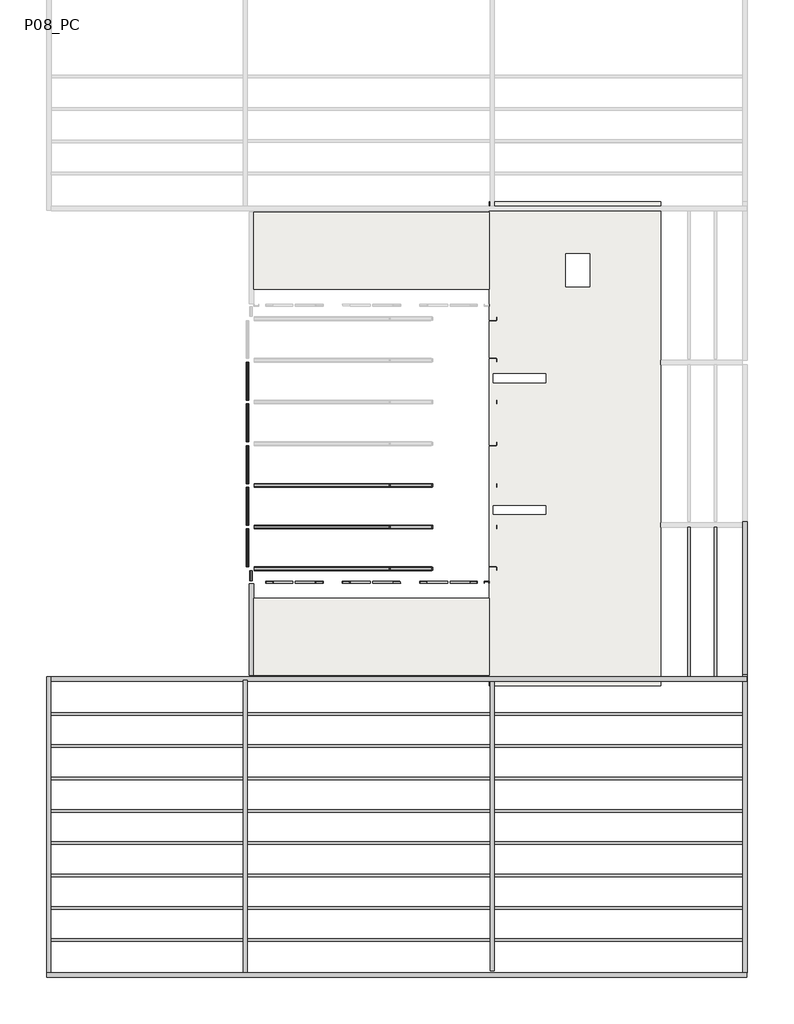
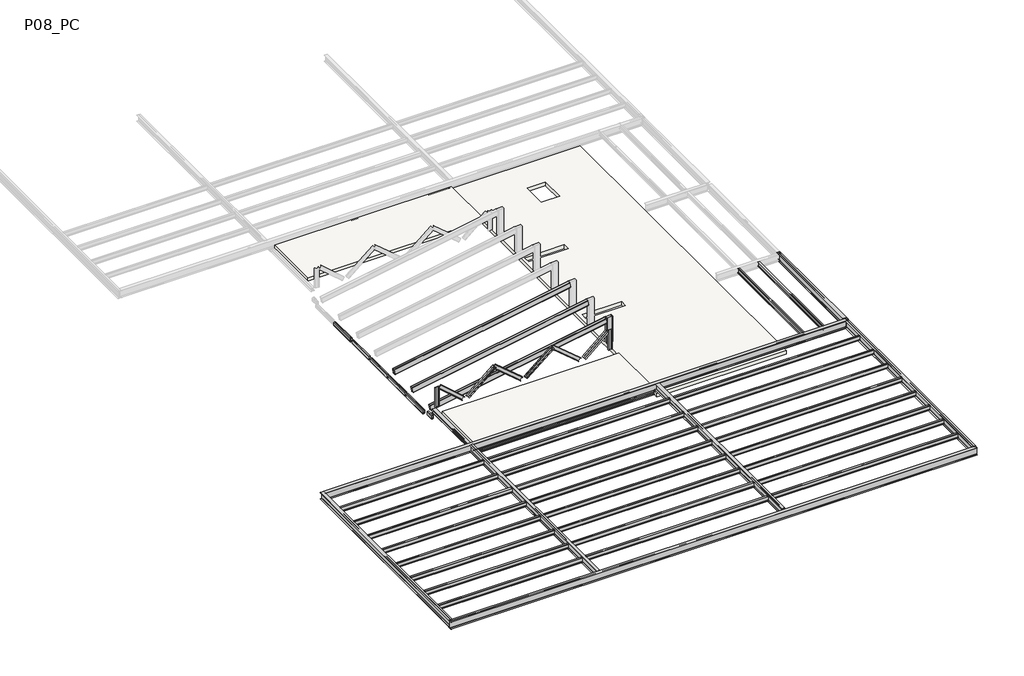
# One storey, part 1 of 2: 50 beams, 3 columns, 2 slabs.
"""IFC4 building model written with IfcOpenShell, lengths in millimetres."""

from ifc_helpers import new_model, si_unit, frame, origin, place, context, project, spatial, polyline, outline, extrude, faceted_brep, transform, mapped, element, save
from components import heb_180x180_c49aca14, heb_180x180_6f7749b3, m_hss_rectangular_hss_200x100_02db10bf, m_hss_rectangular_hss_200x100_1788cd85, m_hss_rectangular_hss_200x100_fa2a969a, m_hss_rectangular_hss_200x100_f713b872, m_hss_rectangular_hss_200x100_80d761ef, m_hss_rectangular_hss_300x150_f2dc2021, ub_universal_beams_ipe_400x180_9b888a99, ub_universal_beams_ipe_400x180_7d0474ca, ub_universal_beams_ipe_400x180_c99dd9ee, ub_universal_beams_ipe_400x180_7c40678e, ub_universal_beams_ipe360x170_00305597, ub_universal_beams_ipe360x170_7345a894, ub_universal_beams_ipe360x170_40bca2fe, ub_universal_beams_ub240x100x40_81a49e44, ub_universal_beams_ub240x100x40_b49092f3, ub_universal_beams_ub240x100x40_dda5167d, ub_universal_beams_ub240x100x40_f5e3285b, upn200x75_e305e8eb, upn200x75_de5bd99d, upn200x75_fda01a95, upn200x75_ef32aa81, rhs_rectangular_hollow_section_column_300x150x5_0rhs_4ea1d480, upn_200x75_9e4be795

model = new_model("IFC4")

# Units and contexts
model_context = context("Model", 3, world=origin())
ifc_project = project(units=[si_unit("LENGTHUNIT", "METRE", prefix="MILLI")], contexts=[model_context])

# Site, building, storey
site = spatial("IfcSite", under=ifc_project)
building = spatial("IfcBuilding", under=site)
storey = spatial("IfcBuildingStorey", under=building, Name="P08_PC", Elevation=37410.0)

# Beams
placement = place(None, origin())
heb_180x180_shape = heb_180x180_c49aca14(model_context)
element("IfcBeam", 1, ObjectType="M_HP-Bearing Pile : HEB 180x180", at=placement, inside=storey, context=model_context, shape_type="MappedRepresentation", body=[
    mapped(heb_180x180_shape, transform((-18515.2932454, -4910.1983304, 37770.0), x_axis=(1.0, 0.0, 0.0), y_axis=(0.0, 1.0, 0.0), z_axis=(0.0, 0.0, 1.0))),
])
heb_180x180_2_shape = heb_180x180_6f7749b3(model_context)
element("IfcBeam", 2, ObjectType="M_HP-Bearing Pile : HEB 180x180", at=placement, inside=storey, context=model_context, shape_type="MappedRepresentation", body=[
    mapped(heb_180x180_2_shape, transform((-23130.357866, -2901.6048659, 37770.0), x_axis=(0.0, -1.0, 0.0), y_axis=(1.0, 0.0, 0.0), z_axis=(0.0, 0.0, 1.0))),
])
m_hss_rectangular_hss_200x100_shape = m_hss_rectangular_hss_200x100_02db10bf(model_context)
element("IfcBeam", 3, ObjectType="M_HSS Rectangular : HSS 200x100", at=placement, inside=storey, context=model_context, shape_type="MappedRepresentation", body=[
    mapped(m_hss_rectangular_hss_200x100_shape, transform((-23290.3172557, 6989.4139649, 37310.0), x_axis=(-3.182446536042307e-08, -0.9999999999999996, 0.0), y_axis=(0.9999999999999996, -3.182446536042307e-08, 0.0), z_axis=(0.0, 0.0, 1.0))),
])
element("IfcBeam", 4, ObjectType="M_HSS Rectangular : HSS 200x100", at=placement, inside=storey, context=model_context, shape_type="MappedRepresentation", body=[
    mapped(m_hss_rectangular_hss_200x100_shape, transform((-23290.3174148, 1989.4143425, 37310.0), x_axis=(-3.182446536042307e-08, -0.9999999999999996, 0.0), y_axis=(0.9999999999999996, -3.182446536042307e-08, 0.0), z_axis=(0.0, 0.0, 1.0))),
])
m_hss_rectangular_hss_200x100_2_shape = m_hss_rectangular_hss_200x100_1788cd85(model_context)
element("IfcBeam", 5, ObjectType="M_HSS Rectangular : HSS 200x100", at=placement, inside=storey, context=model_context, shape_type="MappedRepresentation", body=[
    mapped(m_hss_rectangular_hss_200x100_2_shape, transform((-23290.3173087, 5322.9883919, 37310.0), x_axis=(-3.182446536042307e-08, -0.9999999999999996, 0.0), y_axis=(0.9999999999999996, -3.182446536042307e-08, 0.0), z_axis=(0.0, 0.0, 1.0))),
])
m_hss_rectangular_hss_200x100_3_shape = m_hss_rectangular_hss_200x100_fa2a969a(model_context)
element("IfcBeam", 6, ObjectType="M_HSS Rectangular : HSS 200x100", at=placement, inside=storey, context=model_context, shape_type="MappedRepresentation", body=[
    mapped(m_hss_rectangular_hss_200x100_3_shape, transform((-23290.3173618, 3656.3218509, 37310.0), x_axis=(-3.182446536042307e-08, -0.9999999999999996, 0.0), y_axis=(0.9999999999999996, -3.182446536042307e-08, 0.0), z_axis=(0.0, 0.0, 1.0))),
])
m_hss_rectangular_hss_200x100_4_shape = m_hss_rectangular_hss_200x100_f713b872(model_context)
element("IfcBeam", 7, ObjectType="M_HSS Rectangular : HSS 200x100", at=placement, inside=storey, context=model_context, shape_type="MappedRepresentation", body=[
    mapped(m_hss_rectangular_hss_200x100_4_shape, transform((-23290.3174678, 322.7478039, 37310.0), x_axis=(-3.182446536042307e-08, -0.9999999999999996, 0.0), y_axis=(0.9999999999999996, -3.182446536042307e-08, 0.0), z_axis=(0.0, 0.0, 1.0))),
])
m_hss_rectangular_hss_200x100_5_shape = m_hss_rectangular_hss_200x100_80d761ef(model_context)
element("IfcBeam", 8, ObjectType="M_HSS Rectangular : HSS 200x100", at=placement, inside=storey, context=model_context, shape_type="MappedRepresentation", body=[
    mapped(m_hss_rectangular_hss_200x100_5_shape, transform((-23160.3171618, -812.6043939, 37310.0), x_axis=(0.0, -1.0, 0.0), y_axis=(1.0, 0.0, 0.0), z_axis=(0.0, 0.0, 1.0))),
])
m_hss_rectangular_hss_300x150_shape = m_hss_rectangular_hss_300x150_f2dc2021(model_context)
element("IfcBeam", 9, ObjectType="M_HSS Rectangular : HSS 300x150", at=placement, inside=storey, context=model_context, shape_type="MappedRepresentation", body=[
    mapped(m_hss_rectangular_hss_300x150_shape, transform((-18389.3310242, 2822.7475973, 38322.2684738), x_axis=(0.9848768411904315, -2.6177525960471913e-09, 0.1732559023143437), y_axis=(2.6579491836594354e-09, 1.0, 0.0), z_axis=(-0.17325590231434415, 4.6050538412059e-10, 0.9848768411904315))),
])
element("IfcBeam", 10, ObjectType="M_HSS Rectangular : HSS 300x150", at=placement, inside=storey, context=model_context, shape_type="MappedRepresentation", body=[
    mapped(m_hss_rectangular_hss_300x150_shape, transform((-18389.3310242, 1156.0810586, 38322.2684738), x_axis=(0.9848768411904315, -2.6177525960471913e-09, 0.1732559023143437), y_axis=(2.6579491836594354e-09, 1.0, 0.0), z_axis=(-0.17325590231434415, 4.6050538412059e-10, 0.9848768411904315))),
])
element("IfcBeam", 11, ObjectType="M_HSS Rectangular : HSS 300x150", at=placement, inside=storey, context=model_context, shape_type="MappedRepresentation", body=[
    mapped(m_hss_rectangular_hss_300x150_shape, transform((-18389.3310242, -510.5854799, 38322.2684738), x_axis=(0.9848768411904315, -2.6177525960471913e-09, 0.1732559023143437), y_axis=(2.6579491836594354e-09, 1.0, 0.0), z_axis=(-0.17325590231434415, 4.6050538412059e-10, 0.9848768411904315))),
])
ub_universal_beams_ipe_400x180_shape = ub_universal_beams_ipe_400x180_9b888a99(model_context)
element("IfcBeam", 12, ObjectType="UB-Universal Beams : IPE 400x180", at=placement, inside=storey, context=model_context, shape_type="MappedRepresentation", body=[
    mapped(ub_universal_beams_ipe_400x180_shape, transform((-3415.7677047, -10837.5661244, 38060.0), x_axis=(0.0, 1.0, 0.0), y_axis=(-1.0, 0.0, 0.0), z_axis=(0.0, 0.0, 1.0))),
])
ub_universal_beams_ipe_400x180_2_shape = ub_universal_beams_ipe_400x180_7d0474ca(model_context)
element("IfcBeam", 13, ObjectType="UB-Universal Beams : IPE 400x180", at=placement, inside=storey, context=model_context, shape_type="MappedRepresentation", body=[
    mapped(ub_universal_beams_ipe_400x180_2_shape, transform((-17328.0381118, -16760.1023766, 38060.0), x_axis=(1.0, 0.0, 0.0), y_axis=(0.0, 1.0, 0.0), z_axis=(0.0, 0.0, 1.0))),
])
ub_universal_beams_ipe_400x180_3_shape = ub_universal_beams_ipe_400x180_c99dd9ee(model_context)
element("IfcBeam", 14, ObjectType="UB-Universal Beams : IPE 400x180", at=placement, inside=storey, context=model_context, shape_type="MappedRepresentation", body=[
    mapped(ub_universal_beams_ipe_400x180_3_shape, transform((-17328.0255668, -4910.1983304, 38060.0), x_axis=(1.0, 0.0, 0.0), y_axis=(0.0, 1.0, 0.0), z_axis=(0.0, 0.0, 1.0))),
])
ub_universal_beams_ipe_400x180_4_shape = ub_universal_beams_ipe_400x180_7c40678e(model_context)
element("IfcBeam", 15, ObjectType="UB-Universal Beams : IPE 400x180", at=placement, inside=storey, context=model_context, shape_type="MappedRepresentation", body=[
    mapped(ub_universal_beams_ipe_400x180_4_shape, transform((-3415.7426146, -1837.4761974, 38060.0), x_axis=(0.0, 1.0, 0.0), y_axis=(-1.0, 0.0, 0.0), z_axis=(0.0, 0.0, 1.0))),
])
ub_universal_beams_ipe360x170_shape = ub_universal_beams_ipe360x170_00305597(model_context)
element("IfcBeam", 16, ObjectType="UB-Universal Beams : IPE360x170", at=placement, inside=storey, context=model_context, shape_type="MappedRepresentation", body=[
    mapped(ub_universal_beams_ipe360x170_shape, transform((-31240.3085189, -10835.1503535, 38080.0), x_axis=(0.0, 1.0, 0.0), y_axis=(-1.0, 0.0, 0.0), z_axis=(0.0, 0.0, 1.0))),
])
ub_universal_beams_ipe360x170_2_shape = ub_universal_beams_ipe360x170_7345a894(model_context)
element("IfcBeam", 17, ObjectType="UB-Universal Beams : IPE360x170", at=placement, inside=storey, context=model_context, shape_type="MappedRepresentation", body=[
    mapped(ub_universal_beams_ipe360x170_2_shape, transform((-23390.2960189, -10972.669701, 38080.0), x_axis=(0.0, 1.0, 0.0), y_axis=(-1.0, 0.0, 0.0), z_axis=(0.0, 0.0, 1.0))),
])
ub_universal_beams_ipe360x170_3_shape = ub_universal_beams_ipe360x170_40bca2fe(model_context)
element("IfcBeam", 18, ObjectType="UB-Universal Beams : IPE360x170", at=placement, inside=storey, context=model_context, shape_type="MappedRepresentation", body=[
    mapped(ub_universal_beams_ipe360x170_3_shape, transform((-13515.29311, -10747.1261313, 38080.0), x_axis=(0.0, 1.0, 0.0), y_axis=(-1.0, 0.0, 0.0), z_axis=(0.0, 0.0, 1.0))),
])
ub_universal_beams_ub240x100x40_shape = ub_universal_beams_ub240x100x40_81a49e44(model_context)
element("IfcBeam", 19, ObjectType="UB-Universal Beams : UB240x100x40", at=placement, inside=storey, context=model_context, shape_type="MappedRepresentation", body=[
    mapped(ub_universal_beams_ub240x100x40_shape, transform((-27315.3022689, -6308.4467537, 38140.0), x_axis=(1.0, 0.0, 0.0), y_axis=(0.0, 1.0, 0.0), z_axis=(0.0, 0.0, 1.0))),
])
element("IfcBeam", 20, ObjectType="UB-Universal Beams : UB240x100x40", at=placement, inside=storey, context=model_context, shape_type="MappedRepresentation", body=[
    mapped(ub_universal_beams_ub240x100x40_shape, transform((-27315.3022689, -7601.7476813, 38140.0), x_axis=(1.0, 0.0, 0.0), y_axis=(0.0, 1.0, 0.0), z_axis=(0.0, 0.0, 1.0))),
])
element("IfcBeam", 21, ObjectType="UB-Universal Beams : UB240x100x40", at=placement, inside=storey, context=model_context, shape_type="MappedRepresentation", body=[
    mapped(ub_universal_beams_ub240x100x40_shape, transform((-27315.3022689, -8895.0486145, 38140.0), x_axis=(1.0, 0.0, 0.0), y_axis=(0.0, 1.0, 0.0), z_axis=(0.0, 0.0, 1.0))),
])
element("IfcBeam", 22, ObjectType="UB-Universal Beams : UB240x100x40", at=placement, inside=storey, context=model_context, shape_type="MappedRepresentation", body=[
    mapped(ub_universal_beams_ub240x100x40_shape, transform((-27315.3022689, -10188.3495476, 38140.0), x_axis=(1.0, 0.0, 0.0), y_axis=(0.0, 1.0, 0.0), z_axis=(0.0, 0.0, 1.0))),
])
element("IfcBeam", 23, ObjectType="UB-Universal Beams : UB240x100x40", at=placement, inside=storey, context=model_context, shape_type="MappedRepresentation", body=[
    mapped(ub_universal_beams_ub240x100x40_shape, transform((-27315.3022689, -11481.6504808, 38140.0), x_axis=(1.0, 0.0, 0.0), y_axis=(0.0, 1.0, 0.0), z_axis=(0.0, 0.0, 1.0))),
])
element("IfcBeam", 24, ObjectType="UB-Universal Beams : UB240x100x40", at=placement, inside=storey, context=model_context, shape_type="MappedRepresentation", body=[
    mapped(ub_universal_beams_ub240x100x40_shape, transform((-27315.3022689, -12774.9514139, 38140.0), x_axis=(1.0, 0.0, 0.0), y_axis=(0.0, 1.0, 0.0), z_axis=(0.0, 0.0, 1.0))),
])
element("IfcBeam", 25, ObjectType="UB-Universal Beams : UB240x100x40", at=placement, inside=storey, context=model_context, shape_type="MappedRepresentation", body=[
    mapped(ub_universal_beams_ub240x100x40_shape, transform((-27315.3022689, -14068.2523471, 38140.0), x_axis=(1.0, 0.0, 0.0), y_axis=(0.0, 1.0, 0.0), z_axis=(0.0, 0.0, 1.0))),
])
element("IfcBeam", 26, ObjectType="UB-Universal Beams : UB240x100x40", at=placement, inside=storey, context=model_context, shape_type="MappedRepresentation", body=[
    mapped(ub_universal_beams_ub240x100x40_shape, transform((-27315.3022689, -15361.5532803, 38140.0), x_axis=(1.0, 0.0, 0.0), y_axis=(0.0, 1.0, 0.0), z_axis=(0.0, 0.0, 1.0))),
])
ub_universal_beams_ub240x100x40_2_shape = ub_universal_beams_ub240x100x40_b49092f3(model_context)
element("IfcBeam", 27, ObjectType="UB-Universal Beams : UB240x100x40", at=placement, inside=storey, context=model_context, shape_type="MappedRepresentation", body=[
    mapped(ub_universal_beams_ub240x100x40_2_shape, transform((-18452.7945644, -6308.4467537, 38140.0), x_axis=(1.0, 0.0, 0.0), y_axis=(0.0, 1.0, 0.0), z_axis=(0.0, 0.0, 1.0))),
])
element("IfcBeam", 28, ObjectType="UB-Universal Beams : UB240x100x40", at=placement, inside=storey, context=model_context, shape_type="MappedRepresentation", body=[
    mapped(ub_universal_beams_ub240x100x40_2_shape, transform((-18452.7945644, -7601.7476813, 38140.0), x_axis=(1.0, 0.0, 0.0), y_axis=(0.0, 1.0, 0.0), z_axis=(0.0, 0.0, 1.0))),
])
element("IfcBeam", 29, ObjectType="UB-Universal Beams : UB240x100x40", at=placement, inside=storey, context=model_context, shape_type="MappedRepresentation", body=[
    mapped(ub_universal_beams_ub240x100x40_2_shape, transform((-18452.7945644, -8895.0486145, 38140.0), x_axis=(1.0, 0.0, 0.0), y_axis=(0.0, 1.0, 0.0), z_axis=(0.0, 0.0, 1.0))),
])
element("IfcBeam", 30, ObjectType="UB-Universal Beams : UB240x100x40", at=placement, inside=storey, context=model_context, shape_type="MappedRepresentation", body=[
    mapped(ub_universal_beams_ub240x100x40_2_shape, transform((-18452.7945644, -10188.3495476, 38140.0), x_axis=(1.0, 0.0, 0.0), y_axis=(0.0, 1.0, 0.0), z_axis=(0.0, 0.0, 1.0))),
])
element("IfcBeam", 31, ObjectType="UB-Universal Beams : UB240x100x40", at=placement, inside=storey, context=model_context, shape_type="MappedRepresentation", body=[
    mapped(ub_universal_beams_ub240x100x40_2_shape, transform((-18452.7945644, -11481.6504808, 38140.0), x_axis=(1.0, 0.0, 0.0), y_axis=(0.0, 1.0, 0.0), z_axis=(0.0, 0.0, 1.0))),
])
element("IfcBeam", 32, ObjectType="UB-Universal Beams : UB240x100x40", at=placement, inside=storey, context=model_context, shape_type="MappedRepresentation", body=[
    mapped(ub_universal_beams_ub240x100x40_2_shape, transform((-18452.7945644, -12774.9514139, 38140.0), x_axis=(1.0, 0.0, 0.0), y_axis=(0.0, 1.0, 0.0), z_axis=(0.0, 0.0, 1.0))),
])
element("IfcBeam", 33, ObjectType="UB-Universal Beams : UB240x100x40", at=placement, inside=storey, context=model_context, shape_type="MappedRepresentation", body=[
    mapped(ub_universal_beams_ub240x100x40_2_shape, transform((-18452.7945644, -14068.2523471, 38140.0), x_axis=(1.0, 0.0, 0.0), y_axis=(0.0, 1.0, 0.0), z_axis=(0.0, 0.0, 1.0))),
])
element("IfcBeam", 34, ObjectType="UB-Universal Beams : UB240x100x40", at=placement, inside=storey, context=model_context, shape_type="MappedRepresentation", body=[
    mapped(ub_universal_beams_ub240x100x40_2_shape, transform((-18452.7945644, -15361.5532803, 38140.0), x_axis=(1.0, 0.0, 0.0), y_axis=(0.0, 1.0, 0.0), z_axis=(0.0, 0.0, 1.0))),
])
ub_universal_beams_ub240x100x40_3_shape = ub_universal_beams_ub240x100x40_dda5167d(model_context)
element("IfcBeam", 35, ObjectType="UB-Universal Beams : UB240x100x40", at=placement, inside=storey, context=model_context, shape_type="MappedRepresentation", body=[
    mapped(ub_universal_beams_ub240x100x40_3_shape, transform((-8465.5304073, -6308.4467537, 38140.0), x_axis=(1.0, 0.0, 0.0), y_axis=(0.0, 1.0, 0.0), z_axis=(0.0, 0.0, 1.0))),
])
element("IfcBeam", 36, ObjectType="UB-Universal Beams : UB240x100x40", at=placement, inside=storey, context=model_context, shape_type="MappedRepresentation", body=[
    mapped(ub_universal_beams_ub240x100x40_3_shape, transform((-8465.5304073, -7601.7476813, 38140.0), x_axis=(1.0, 0.0, 0.0), y_axis=(0.0, 1.0, 0.0), z_axis=(0.0, 0.0, 1.0))),
])
element("IfcBeam", 37, ObjectType="UB-Universal Beams : UB240x100x40", at=placement, inside=storey, context=model_context, shape_type="MappedRepresentation", body=[
    mapped(ub_universal_beams_ub240x100x40_3_shape, transform((-8465.5304073, -8895.0486145, 38140.0), x_axis=(1.0, 0.0, 0.0), y_axis=(0.0, 1.0, 0.0), z_axis=(0.0, 0.0, 1.0))),
])
element("IfcBeam", 38, ObjectType="UB-Universal Beams : UB240x100x40", at=placement, inside=storey, context=model_context, shape_type="MappedRepresentation", body=[
    mapped(ub_universal_beams_ub240x100x40_3_shape, transform((-8465.5304073, -10188.3495476, 38140.0), x_axis=(1.0, 0.0, 0.0), y_axis=(0.0, 1.0, 0.0), z_axis=(0.0, 0.0, 1.0))),
])
element("IfcBeam", 39, ObjectType="UB-Universal Beams : UB240x100x40", at=placement, inside=storey, context=model_context, shape_type="MappedRepresentation", body=[
    mapped(ub_universal_beams_ub240x100x40_3_shape, transform((-8465.5304073, -11481.6504808, 38140.0), x_axis=(1.0, 0.0, 0.0), y_axis=(0.0, 1.0, 0.0), z_axis=(0.0, 0.0, 1.0))),
])
element("IfcBeam", 40, ObjectType="UB-Universal Beams : UB240x100x40", at=placement, inside=storey, context=model_context, shape_type="MappedRepresentation", body=[
    mapped(ub_universal_beams_ub240x100x40_3_shape, transform((-8465.5304073, -12774.9514139, 38140.0), x_axis=(1.0, 0.0, 0.0), y_axis=(0.0, 1.0, 0.0), z_axis=(0.0, 0.0, 1.0))),
])
element("IfcBeam", 41, ObjectType="UB-Universal Beams : UB240x100x40", at=placement, inside=storey, context=model_context, shape_type="MappedRepresentation", body=[
    mapped(ub_universal_beams_ub240x100x40_3_shape, transform((-8465.5304073, -14068.2523471, 38140.0), x_axis=(1.0, 0.0, 0.0), y_axis=(0.0, 1.0, 0.0), z_axis=(0.0, 0.0, 1.0))),
])
element("IfcBeam", 42, ObjectType="UB-Universal Beams : UB240x100x40", at=placement, inside=storey, context=model_context, shape_type="MappedRepresentation", body=[
    mapped(ub_universal_beams_ub240x100x40_3_shape, transform((-8465.5304073, -15361.5532803, 38140.0), x_axis=(1.0, 0.0, 0.0), y_axis=(0.0, 1.0, 0.0), z_axis=(0.0, 0.0, 1.0))),
])
ub_universal_beams_ub240x100x40_4_shape = ub_universal_beams_ub240x100x40_f5e3285b(model_context)
element("IfcBeam", 43, ObjectType="UB-Universal Beams : UB240x100x40", at=placement, inside=storey, context=model_context, shape_type="MappedRepresentation", body=[
    mapped(ub_universal_beams_ub240x100x40_4_shape, transform((-5648.1544212, -1837.4761974, 38140.0), x_axis=(-1.2454712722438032e-09, -1.0, 0.0), y_axis=(1.0, -1.2454712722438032e-09, 0.0), z_axis=(0.0, 0.0, 1.0))),
])
element("IfcBeam", 44, ObjectType="UB-Universal Beams : UB240x100x40", at=placement, inside=storey, context=model_context, shape_type="MappedRepresentation", body=[
    mapped(ub_universal_beams_ub240x100x40_4_shape, transform((-4581.4877544, -1837.4761974, 38140.0), x_axis=(-1.245471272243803e-09, -1.0, 0.0), y_axis=(1.0, -1.245471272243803e-09, 0.0), z_axis=(0.0, 0.0, 1.0))),
])
upn200x75_shape = upn200x75_e305e8eb(model_context)
element("IfcBeam", 45, ObjectType="M_MC Shapes : UPN200x75", at=placement, inside=storey, context=model_context, shape_type="MappedRepresentation", body=[
    mapped(upn200x75_shape, transform((-16078.5015294, -1021.4872835, 38461.0568246), x_axis=(-0.7654444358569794, -1.1576554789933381e-08, 0.6435019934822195), y_axis=(-1.5123966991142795e-08, 1.0, 0.0), z_axis=(-0.643501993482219, -9.732304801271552e-09, -0.7654444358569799))),
])
element("IfcBeam", 46, ObjectType="M_MC Shapes : UPN200x75", at=placement, inside=storey, context=model_context, shape_type="MappedRepresentation", body=[
    mapped(upn200x75_shape, transform((-19176.2250657, -1021.4872834, 38461.0568246), x_axis=(-0.7654444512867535, -1.157326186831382e-08, 0.6435019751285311), y_axis=(-1.5119664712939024e-08, 0.9999999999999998, 0.0), z_axis=(-0.6435019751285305, -9.729535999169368e-09, -0.7654444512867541))),
])
upn200x75_2_shape = upn200x75_de5bd99d(model_context)
element("IfcBeam", 47, ObjectType="M_MC Shapes : UPN200x75", at=placement, inside=storey, context=model_context, shape_type="MappedRepresentation", body=[
    mapped(upn200x75_2_shape, transform((-17508.4135431, -1021.4872834, 38461.0568246), x_axis=(0.7654444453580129, -1.1576577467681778e-08, 0.6435019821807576), y_axis=(-1.5123992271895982e-08, -1.0, 0.0), z_axis=(0.6435019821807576, -9.732317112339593e-09, -0.7654444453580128))),
])
element("IfcBeam", 48, ObjectType="M_MC Shapes : UPN200x75", at=placement, inside=storey, context=model_context, shape_type="MappedRepresentation", body=[
    mapped(upn200x75_2_shape, transform((-20606.1370723, -1021.4872834, 38461.0568246), x_axis=(0.7654444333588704, -1.1573284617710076e-08, 0.6435019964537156), y_axis=(-1.511969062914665e-08, -0.9999999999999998, 0.0), z_axis=(0.6435019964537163, -9.729549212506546e-09, -0.7654444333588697))),
])
upn200x75_3_shape = upn200x75_fda01a95(model_context)
element("IfcBeam", 49, ObjectType="M_MC Shapes : UPN200x75", at=placement, inside=storey, context=model_context, shape_type="MappedRepresentation", body=[
    mapped(upn200x75_3_shape, transform((-22248.2542796, -1021.4872833, 38461.0568246), x_axis=(-0.7554083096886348, -1.17912308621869e-08, 0.6552543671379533), y_axis=(-1.5609084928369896e-08, 1.0, 0.0), z_axis=(-0.6552543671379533, -1.0227922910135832e-08, -0.7554083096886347))),
])
upn200x75_4_shape = upn200x75_ef32aa81(model_context)
element("IfcBeam", 50, ObjectType="M_MC Shapes : UPN200x75", at=placement, inside=storey, context=model_context, shape_type="MappedRepresentation", body=[
    mapped(upn200x75_4_shape, transform((-14436.3843512, -1021.4872833, 38461.0568246), x_axis=(0.7554083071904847, -1.1791253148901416e-08, 0.6552543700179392), y_axis=(-1.560911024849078e-08, -1.0, 0.0), z_axis=(0.6552543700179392, -1.0227935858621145e-08, -0.7554083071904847))),
])

# Columns
rhs_rectangular_hollow_section_column_300x150x5_0rhs_shape = rhs_rectangular_hollow_section_column_300x150x5_0rhs_4ea1d480(model_context)
element("IfcColumn", 51, ObjectType="RHS-Rectangular Hollow Section-Column : 300x150x5.0RHS", at=placement, inside=storey, context=model_context, shape_type="MappedRepresentation", body=[
    mapped(rhs_rectangular_hollow_section_column_300x150x5_0rhs_shape, transform((-13490.2932753, -510.5854671, 0.0), x_axis=(3.1824473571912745e-08, 0.9999999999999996, 0.0), y_axis=(-0.9999999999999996, 3.1824473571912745e-08, 0.0), z_axis=(0.0, 0.0, 1.0))),
])
upn_200x75_shape = upn_200x75_9e4be795(model_context)
element("IfcColumn", 52, ObjectType="M_MC Shapes-Column : UPN 200x75", at=placement, inside=storey, context=model_context, shape_type="MappedRepresentation", body=[
    mapped(upn_200x75_shape, transform((-22940.3175214, -1036.9870429, 0.0), x_axis=(-3.122957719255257e-08, -0.9999999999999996, 0.0), y_axis=(0.9999999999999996, -3.122957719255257e-08, 0.0), z_axis=(0.0, 0.0, 1.0))),
])
element("IfcColumn", 53, ObjectType="M_MC Shapes-Column : UPN 200x75", at=placement, inside=storey, context=model_context, shape_type="MappedRepresentation", body=[
    mapped(upn_200x75_shape, transform((-13740.3216426, -1036.9870429, 0.0), x_axis=(-3.122957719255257e-08, -0.9999999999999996, 0.0), y_axis=(0.9999999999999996, -3.122957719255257e-08, 0.0), z_axis=(0.0, 0.0, 1.0))),
])

# Slabs
element("IfcSlab", 54, ObjectType="Forjat_Llosa-Formigo-200", at=placement, inside=storey, context=model_context, shape_type="SweptSolid", body=[
    extrude(outline(polyline([(-6765.2933365, 14164.8980442), (-6765.2933365, -5185.1019633), (-13640.2933809, -5185.1019633), (-13640.2933809, 14164.8980442), (-6765.2933365, 14164.8980442)]), holes=[polyline([(-9604.4112721, 12085.3784629), (-10569.4079038, 12085.3784629), (-10569.4079038, 10765.3801426), (-9604.4112721, 10765.3801426), (-9604.4112721, 12085.3784629)]), polyline([(-13469.4054081, 7285.371297), (-13469.4054081, 6935.3712978), (-11369.405451, 6935.3712978), (-11369.405451, 7285.371297), (-13469.4054081, 7285.371297)]), polyline([(-13469.4054105, 2010.3501075), (-13469.4054105, 1660.3501073), (-11369.4054537, 1660.3501073), (-11369.4054537, 2010.3501075), (-13469.4054105, 2010.3501075)])]), frame((0.0, 0.0, 37660.0), z_axis=(0.0, 0.0, 1.0), x_axis=(1.0, 0.0, 0.0)), (0.0, 0.0, 1.0), 200.0),
])
element("IfcSlab", 55, ObjectType="Forjat_Llosa-Formigo-150", at=placement, inside=storey, context=model_context, shape_type="Brep", body=[
    faceted_brep([(-13640.3217844, 13739.4134874, 37860.0), (-13640.3218116, 10669.4138769, 37860.0), (-14340.4539285, 10669.4138831, 37860.0), (-23040.3171618, 10669.4139602, 37860.0), (-23040.3171618, 13739.4147114, 37860.0), (-13640.3218116, 10669.4138769, 38010.0), (-13640.3217844, 13739.4134874, 38010.0), (-23040.3171618, 13739.4147114, 38010.0), (-23040.3171618, 10669.4139602, 38010.0), (-14340.4539285, 10669.4138831, 38010.0)], [[[0, 1, 2, 3, 4]], [[5, 6, 7, 8, 9]], [[1, 0, 6, 5]], [[8, 3, 2, 1, 5, 9]], [[4, 3, 8, 7]], [[0, 4, 7, 6]]]),
    faceted_brep([(-13640.3216429, -4759.6213509, 37860.0), (-23040.3171618, -4759.6225749, 37860.0), (-23040.3171618, -1690.5582471, 37860.0), (-14340.4510584, -1690.5582471, 37860.0), (-14340.4510584, -1689.6217842, 37860.0), (-13640.3219531, -1689.6217842, 37860.0), (-23040.3171618, -4759.6225749, 38010.0), (-13640.3216429, -4759.6213509, 38010.0), (-13640.3219531, -1689.6217842, 38010.0), (-14340.4510584, -1689.6217842, 38010.0), (-14340.4510584, -1690.5582471, 38010.0), (-23040.3171618, -1690.5582471, 38010.0)], [[[0, 1, 2, 3, 4, 5]], [[6, 7, 8, 9, 10, 11]], [[1, 0, 7, 6]], [[1, 6, 11, 2]], [[8, 5, 4, 9]], [[0, 5, 8, 7]], [[10, 3, 2, 11]], [[3, 10, 9, 4]]]),
])

save(model, "model.ifc")
